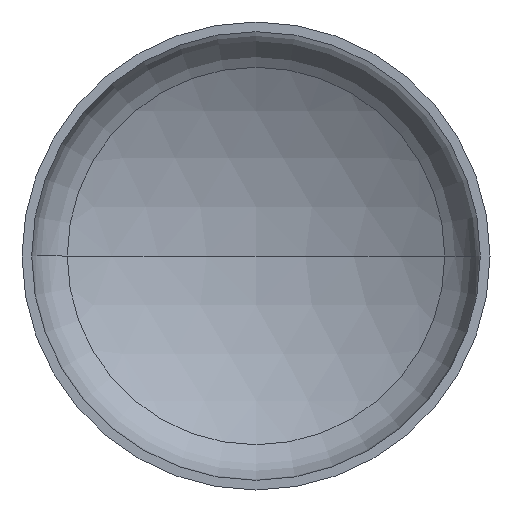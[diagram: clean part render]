
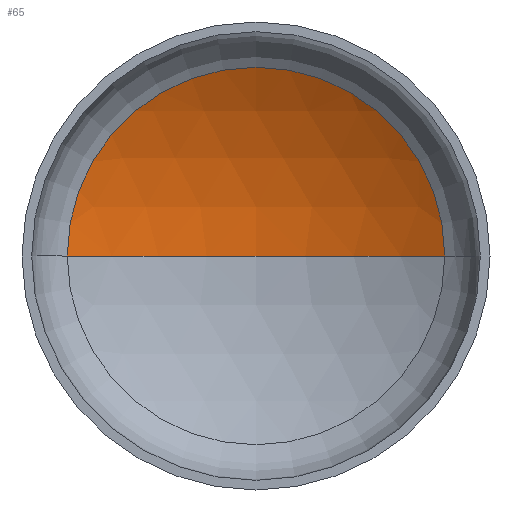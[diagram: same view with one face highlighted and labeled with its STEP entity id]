
A CAD part, front view. The second image highlights one B-rep face of the part: STEP entity #65.
In plain terms, the highlighted spherical face has radius 1200 mm.
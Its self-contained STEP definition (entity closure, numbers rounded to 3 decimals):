
#11 = EDGE_LOOP ( 'NONE', ( #162, #151, #125 ) ) ;
#12 = AXIS2_PLACEMENT_3D ( 'NONE', #307, #359, #166 ) ;
#13 = AXIS2_PLACEMENT_3D ( 'NONE', #124, #309, #239 ) ;
#19 = AXIS2_PLACEMENT_3D ( 'NONE', #150, #139, #146 ) ;
#45 = VERTEX_POINT ( 'NONE', #283 ) ;
#65 = ADVANCED_FACE ( 'NONE', ( #126 ), #396, .F. ) ;
#69 = AXIS2_PLACEMENT_3D ( 'NONE', #274, #243, #238 ) ;
#109 = VERTEX_POINT ( 'NONE', #306 ) ;
#124 = CARTESIAN_POINT ( 'NONE',  ( 0., 298.635, 0. ) ) ;
#125 = ORIENTED_EDGE ( 'NONE', *, *, #344, .T. ) ;
#126 = FACE_OUTER_BOUND ( 'NONE', #11, .T. ) ;
#134 = CIRCLE ( 'NONE', #13, 604.948 ) ;
#139 = DIRECTION ( 'NONE',  ( 0., 0., 1. ) ) ;
#146 = DIRECTION ( 'NONE',  ( 1., 0., 0. ) ) ;
#148 = CIRCLE ( 'NONE', #19, 1200. ) ;
#150 = CARTESIAN_POINT ( 'NONE',  ( 0., -737.723, 0. ) ) ;
#151 = ORIENTED_EDGE ( 'NONE', *, *, #348, .T. ) ;
#156 = VERTEX_POINT ( 'NONE', #209 ) ;
#162 = ORIENTED_EDGE ( 'NONE', *, *, #333, .F. ) ;
#166 = DIRECTION ( 'NONE',  ( -1., 0., 0. ) ) ;
#209 = CARTESIAN_POINT ( 'NONE',  ( 604.948, 298.635, 0. ) ) ;
#238 = DIRECTION ( 'NONE',  ( -1., 0., 0. ) ) ;
#239 = DIRECTION ( 'NONE',  ( 1., 0., 0. ) ) ;
#243 = DIRECTION ( 'NONE',  ( 0., 0., -1. ) ) ;
#274 = CARTESIAN_POINT ( 'NONE',  ( 0., -737.723, 0. ) ) ;
#283 = CARTESIAN_POINT ( 'NONE',  ( 0., 462.277, 0. ) ) ;
#306 = CARTESIAN_POINT ( 'NONE',  ( -604.948, 298.635, 0. ) ) ;
#307 = CARTESIAN_POINT ( 'NONE',  ( 0., -737.723, 0. ) ) ;
#309 = DIRECTION ( 'NONE',  ( 0., -1., 0. ) ) ;
#333 = EDGE_CURVE ( 'NONE', #45, #109, #148, .T. ) ;
#344 = EDGE_CURVE ( 'NONE', #156, #109, #134, .T. ) ;
#348 = EDGE_CURVE ( 'NONE', #45, #156, #403, .T. ) ;
#359 = DIRECTION ( 'NONE',  ( 0., 0., -1. ) ) ;
#396 = SPHERICAL_SURFACE ( 'NONE', #69, 1200. ) ;
#403 = CIRCLE ( 'NONE', #12, 1200. ) ;
